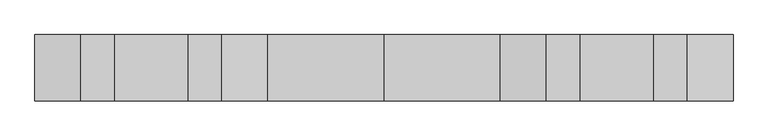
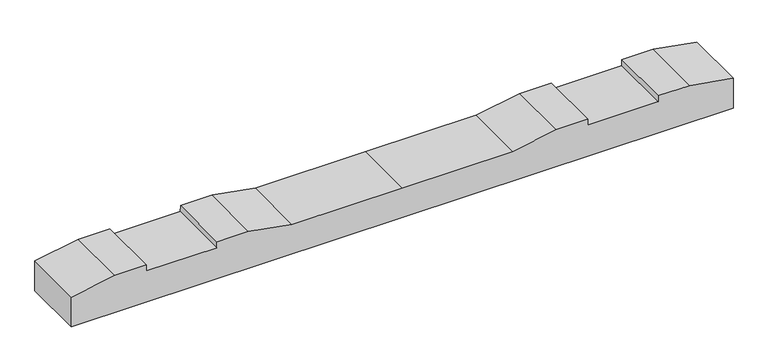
"""IFC4 building model written with IfcOpenShell, lengths in millimetres: proxy geometry, 轨枕-立面角度 : 轨枕-立面角度."""

from ifc_helpers import new_model, si_unit, frame, origin, place, context, project, spatial, polyline, outline, extrude, source, transform, mapped, element, save


def generic_models_f6c2db3f(model_context):
    return source(origin(), model_context, "Body", "SweptSolid", [
        extrude(outline(polyline([(0.0, 0.0), (2099.7669328, 0.0), (2099.7669328, -100.020689), (1961.8834664, -124.5), (1861.8834664, -124.5), (1861.8834664, -104.5), (1637.8834664, -104.5), (1637.8834664, -124.5), (1537.8834664, -124.5), (1399.8834664, -100.0), (1049.8834664, -100.0), (699.8834664, -100.0), (561.8834664, -124.5), (461.8834664, -124.5), (461.8834664, -104.5), (237.8834664, -104.5), (237.8834664, -124.5), (137.8834664, -124.5), (0.0, -100.020689), (0.0, 0.0)])), frame((-1049.8834664, -99.8734347, -104.6209684), z_axis=(0.0, 0.9999992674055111, 0.00121044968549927), x_axis=(1.0, 0.0, 0.0)), (0.0, 0.0, 1.0), 200.0),
    ])


if __name__ == "__main__":
    model = new_model("IFC4")
    model_context = context("Model", 3, world=origin())
    ifc_project = project(units=[si_unit("LENGTHUNIT", "METRE", prefix="MILLI")], contexts=[model_context])
    site = spatial("IfcSite", under=ifc_project)
    building = spatial("IfcBuilding", under=site)
    placement = place(None, origin())
    generic_models_shape = generic_models_f6c2db3f(model_context)
    element("IfcBuildingElementProxy", 1, Name="轨枕-立面角度 : 轨枕-立面角度", ObjectType="轨枕-立面角度 : 轨枕-立面角度", at=placement, inside=building, context=model_context, shape_type="MappedRepresentation", body=[
        mapped(generic_models_shape, transform((0.0, 0.0, 0.0), x_axis=(1.0, 0.0, 0.0), y_axis=(0.0, 1.0, 0.0), z_axis=(0.0, 0.0, 1.0))),
    ])
    save(model, "model.ifc")
